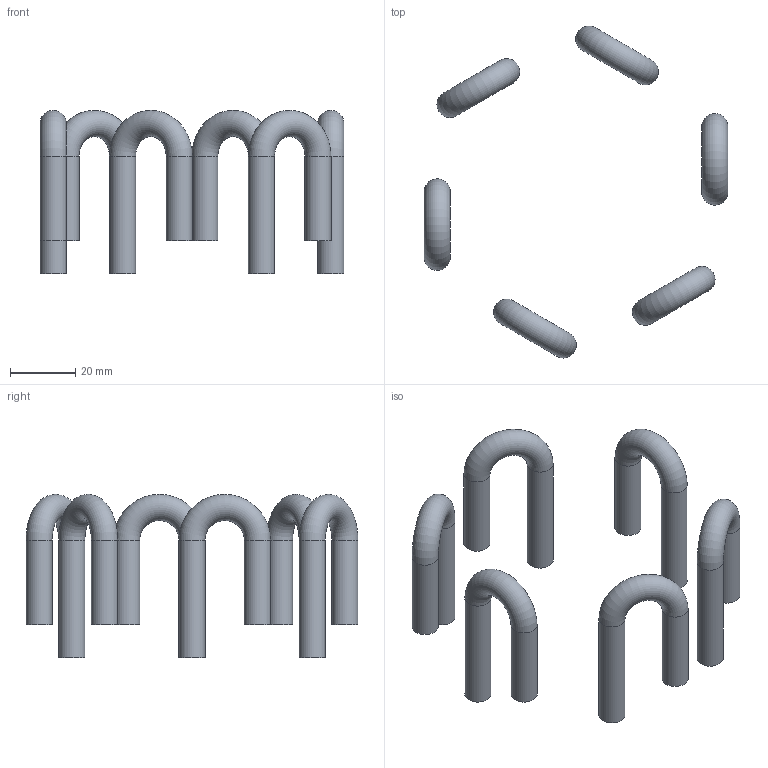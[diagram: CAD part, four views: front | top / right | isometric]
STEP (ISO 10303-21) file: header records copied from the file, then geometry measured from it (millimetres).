
FILE_DESCRIPTION(('Open CASCADE Model'),'2;1');
FILE_NAME('Open CASCADE Shape Model','2026-09-22T23:00:04',('Author'),( 'Open CASCADE'),'Open CASCADE STEP processor 7.9','Open CASCADE 7.9' ,'Unknown');
FILE_SCHEMA(('AUTOMOTIVE_DESIGN { 1 0 10303 214 1 1 1 1 }'));
Length unit declared in the file: millimetre
Products named in the file (7): Open CASCADE STEP translator 7.9 4; Open CASCADE STEP translator 7.9 4.1; Open CASCADE STEP translator 7.9 4.2; Open CASCADE STEP translator 7.9 4.3; Open CASCADE STEP translator 7.9 4.4; Open CASCADE STEP translator 7.9 4.5; Open CASCADE STEP translator 7.9 4.6
Assembly tree (6 placements, depth 2):
  Open CASCADE STEP translator 7.9 4
    Open CASCADE STEP translator 7.9 4.1
    Open CASCADE STEP translator 7.9 4.2
    Open CASCADE STEP translator 7.9 4.3
    Open CASCADE STEP translator 7.9 4.4
    Open CASCADE STEP translator 7.9 4.5
    Open CASCADE STEP translator 7.9 4.6
Bounding box: 93 x 101.61 x 50 mm (x, y, z)
Volume: 6603.2 mm3; surface area: 26554.1 mm2
Topology: 6 solids, 6 shells, 48 faces, 84 edges, 48 vertices
Faces by surface type: cylinder 24, plane 12, torus 12
Full cylindrical faces by diameter (mm): 7 x12, 8 x12
Entity records: 2380 total; most frequent: DIRECTION 422, CARTESIAN_POINT 355, ORIENTED_EDGE 168, LINE 168, VECTOR 168, PCURVE 168, DEFINITIONAL_REPRESENTATION 168, AXIS2_PLACEMENT_3D 115
